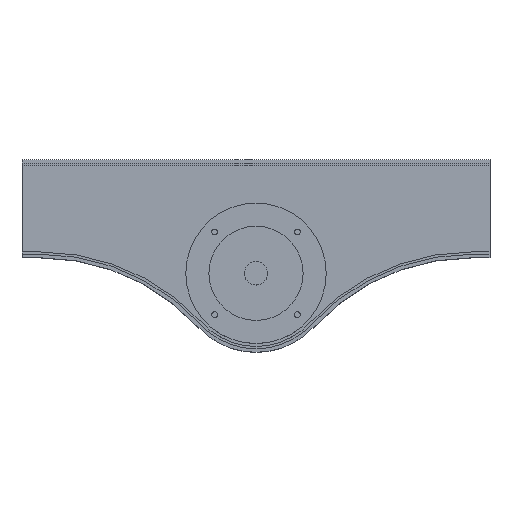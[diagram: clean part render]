
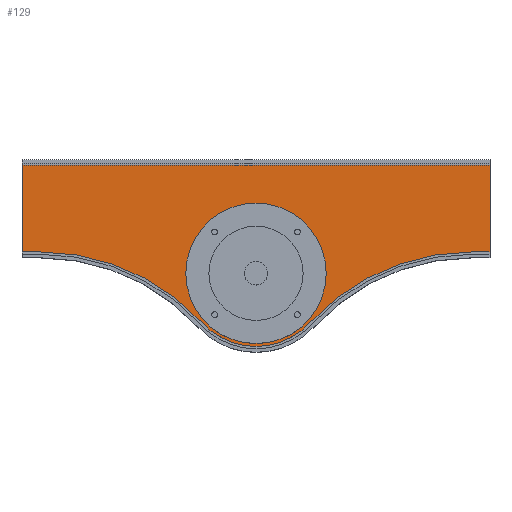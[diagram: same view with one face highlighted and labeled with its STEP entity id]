
A CAD part, top view. The second image highlights one B-rep face of the part: STEP entity #129.
In plain terms, the highlighted planar face has unit normal (0, 0, 1).
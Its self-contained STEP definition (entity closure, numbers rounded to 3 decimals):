
#129 = ADVANCED_FACE ( 'NONE', ( #1443, #1449 ), #374, .T. ) ;
#183 = DIRECTION ( 'NONE',  ( 0., 0., 1. ) ) ;
#202 = CARTESIAN_POINT ( 'NONE',  ( 0., -55.3, 45. ) ) ;
#221 = DIRECTION ( 'NONE',  ( 0., -1., 0. ) ) ;
#242 = CARTESIAN_POINT ( 'NONE',  ( -200., -42., 45. ) ) ;
#247 = CARTESIAN_POINT ( 'NONE',  ( -184.261, -37., 45. ) ) ;
#250 = DIRECTION ( 'NONE',  ( -1., 0., 0. ) ) ;
#253 = DIRECTION ( 'NONE',  ( 1., 0., 0. ) ) ;
#337 = CARTESIAN_POINT ( 'NONE',  ( 184.261, -225., 45. ) ) ;
#374 = PLANE ( 'NONE',  #699 ) ;
#385 = DIRECTION ( 'NONE',  ( 1., 0., 0. ) ) ;
#441 = DIRECTION ( 'NONE',  ( 0., 0., 1. ) ) ;
#513 = AXIS2_PLACEMENT_3D ( 'NONE', #1908, #1909, #1929 ) ;
#523 = EDGE_CURVE ( 'NONE', #1100, #1115, #1533, .T. ) ;
#552 = EDGE_CURVE ( 'NONE', #1116, #1092, #1576, .T. ) ;
#553 = EDGE_CURVE ( 'NONE', #1125, #1092, #1569, .T. ) ;
#554 = EDGE_CURVE ( 'NONE', #1130, #1125, #1577, .T. ) ;
#555 = EDGE_CURVE ( 'NONE', #1105, #1130, #1579, .T. ) ;
#556 = EDGE_CURVE ( 'NONE', #1124, #1105, #1581, .T. ) ;
#557 = EDGE_CURVE ( 'NONE', #1124, #1110, #1582, .T. ) ;
#558 = EDGE_CURVE ( 'NONE', #1110, #1123, #1584, .T. ) ;
#559 = EDGE_CURVE ( 'NONE', #1116, #1123, #1586, .T. ) ;
#560 = EDGE_CURVE ( 'NONE', #1115, #1100, #1583, .T. ) ;
#699 = AXIS2_PLACEMENT_3D ( 'NONE', #337, #441, #385 ) ;
#829 = CARTESIAN_POINT ( 'NONE',  ( -200., -37., 45. ) ) ;
#837 = CARTESIAN_POINT ( 'NONE',  ( 60., -55.3, 45. ) ) ;
#842 = CARTESIAN_POINT ( 'NONE',  ( 45.973, -97.64, 45. ) ) ;
#847 = CARTESIAN_POINT ( 'NONE',  ( 200., -37., 45. ) ) ;
#852 = CARTESIAN_POINT ( 'NONE',  ( -60., -55.3, 45. ) ) ;
#853 = CARTESIAN_POINT ( 'NONE',  ( -200., 37., 45. ) ) ;
#860 = CARTESIAN_POINT ( 'NONE',  ( 200., 37., 45. ) ) ;
#861 = CARTESIAN_POINT ( 'NONE',  ( 184.261, -37., 45. ) ) ;
#862 = CARTESIAN_POINT ( 'NONE',  ( -184.261, -37., 45. ) ) ;
#867 = CARTESIAN_POINT ( 'NONE',  ( -45.973, -97.64, 45. ) ) ;
#959 = EDGE_LOOP ( 'NONE', ( #1151, #1150, #1149, #1148, #1147, #1146, #1145, #1176 ) ) ;
#967 = EDGE_LOOP ( 'NONE', ( #1177, #1175 ) ) ;
#1092 = VERTEX_POINT ( 'NONE', #829 ) ;
#1100 = VERTEX_POINT ( 'NONE', #837 ) ;
#1105 = VERTEX_POINT ( 'NONE', #842 ) ;
#1110 = VERTEX_POINT ( 'NONE', #847 ) ;
#1115 = VERTEX_POINT ( 'NONE', #852 ) ;
#1116 = VERTEX_POINT ( 'NONE', #853 ) ;
#1123 = VERTEX_POINT ( 'NONE', #860 ) ;
#1124 = VERTEX_POINT ( 'NONE', #861 ) ;
#1125 = VERTEX_POINT ( 'NONE', #862 ) ;
#1130 = VERTEX_POINT ( 'NONE', #867 ) ;
#1145 = ORIENTED_EDGE ( 'NONE', *, *, #558, .T. ) ;
#1146 = ORIENTED_EDGE ( 'NONE', *, *, #557, .T. ) ;
#1147 = ORIENTED_EDGE ( 'NONE', *, *, #556, .F. ) ;
#1148 = ORIENTED_EDGE ( 'NONE', *, *, #555, .F. ) ;
#1149 = ORIENTED_EDGE ( 'NONE', *, *, #554, .F. ) ;
#1150 = ORIENTED_EDGE ( 'NONE', *, *, #553, .F. ) ;
#1151 = ORIENTED_EDGE ( 'NONE', *, *, #552, .T. ) ;
#1175 = ORIENTED_EDGE ( 'NONE', *, *, #560, .F. ) ;
#1176 = ORIENTED_EDGE ( 'NONE', *, *, #559, .F. ) ;
#1177 = ORIENTED_EDGE ( 'NONE', *, *, #523, .F. ) ;
#1443 = FACE_OUTER_BOUND ( 'NONE', #959, .T. ) ;
#1449 = FACE_BOUND ( 'NONE', #967, .T. ) ;
#1533 = CIRCLE ( 'NONE', #1991, 60. ) ;
#1569 = LINE ( 'NONE', #247, #1580 ) ;
#1576 = LINE ( 'NONE', #242, #1578 ) ;
#1577 = CIRCLE ( 'NONE', #1971, 188. ) ;
#1578 = VECTOR ( 'NONE', #221, 1000. ) ;
#1579 = CIRCLE ( 'NONE', #1999, 62.5 ) ;
#1580 = VECTOR ( 'NONE', #250, 1000. ) ;
#1581 = CIRCLE ( 'NONE', #513, 188. ) ;
#1582 = LINE ( 'NONE', #1947, #1585 ) ;
#1583 = CIRCLE ( 'NONE', #1739, 60. ) ;
#1584 = LINE ( 'NONE', #1980, #1587 ) ;
#1585 = VECTOR ( 'NONE', #1912, 1000. ) ;
#1586 = LINE ( 'NONE', #1945, #1589 ) ;
#1587 = VECTOR ( 'NONE', #1968, 1000. ) ;
#1589 = VECTOR ( 'NONE', #1891, 1000. ) ;
#1739 = AXIS2_PLACEMENT_3D ( 'NONE', #1995, #1892, #1895 ) ;
#1891 = DIRECTION ( 'NONE',  ( 1., 0., 0. ) ) ;
#1892 = DIRECTION ( 'NONE',  ( 0., 0., 1. ) ) ;
#1895 = DIRECTION ( 'NONE',  ( 1., 0., 0. ) ) ;
#1899 = DIRECTION ( 'NONE',  ( 0., 0., 1. ) ) ;
#1908 = CARTESIAN_POINT ( 'NONE',  ( 184.261, -225., 45. ) ) ;
#1909 = DIRECTION ( 'NONE',  ( 0., 0., 1. ) ) ;
#1912 = DIRECTION ( 'NONE',  ( 1., 0., 0. ) ) ;
#1929 = DIRECTION ( 'NONE',  ( 1., 0., 0. ) ) ;
#1931 = CARTESIAN_POINT ( 'NONE',  ( -184.261, -225., 45. ) ) ;
#1932 = DIRECTION ( 'NONE',  ( -1., 0., 0. ) ) ;
#1939 = DIRECTION ( 'NONE',  ( 0., 0., -1. ) ) ;
#1945 = CARTESIAN_POINT ( 'NONE',  ( -200., 37., 45. ) ) ;
#1947 = CARTESIAN_POINT ( 'NONE',  ( 184.261, -37., 45. ) ) ;
#1949 = CARTESIAN_POINT ( 'NONE',  ( 0., -55.3, 45. ) ) ;
#1953 = DIRECTION ( 'NONE',  ( 1., 0., 0. ) ) ;
#1968 = DIRECTION ( 'NONE',  ( 0., 1., 0. ) ) ;
#1971 = AXIS2_PLACEMENT_3D ( 'NONE', #1931, #1899, #1953 ) ;
#1980 = CARTESIAN_POINT ( 'NONE',  ( 200., 42., 45. ) ) ;
#1991 = AXIS2_PLACEMENT_3D ( 'NONE', #202, #183, #253 ) ;
#1995 = CARTESIAN_POINT ( 'NONE',  ( 0., -55.3, 45. ) ) ;
#1999 = AXIS2_PLACEMENT_3D ( 'NONE', #1949, #1939, #1932 ) ;
